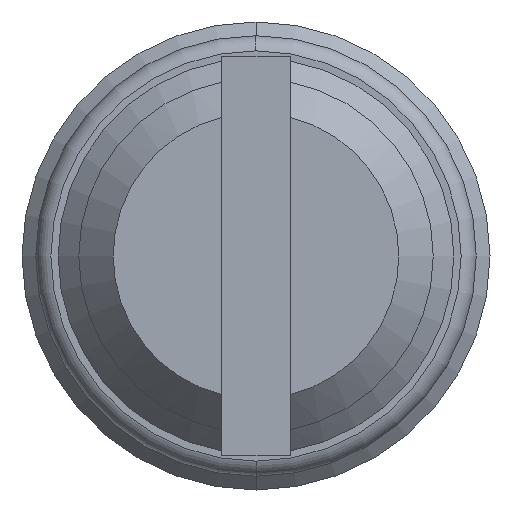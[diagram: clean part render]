
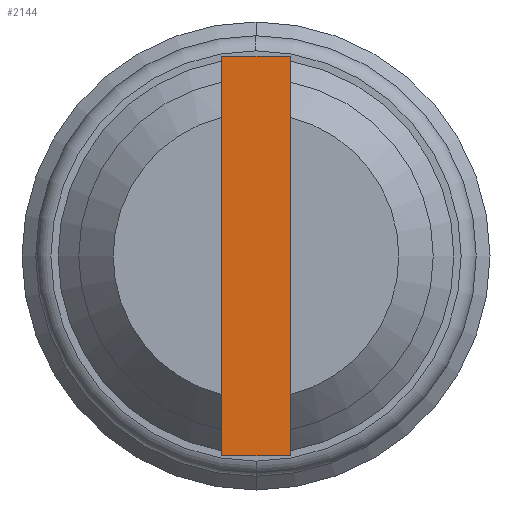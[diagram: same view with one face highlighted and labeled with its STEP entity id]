
A CAD part, left-side view. The second image highlights one B-rep face of the part: STEP entity #2144.
In plain terms, the highlighted planar face has unit normal (-1, 0, 0).
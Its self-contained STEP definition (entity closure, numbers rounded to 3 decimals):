
#47 = VECTOR ( 'NONE', #1578, 1000. ) ;
#55 = VECTOR ( 'NONE', #1584, 1000. ) ;
#73 = VECTOR ( 'NONE', #1572, 1000. ) ;
#74 = VECTOR ( 'NONE', #1574, 1000. ) ;
#265 = AXIS2_PLACEMENT_3D ( 'NONE', #1786, #1787, #1788 ) ;
#671 = FACE_OUTER_BOUND ( 'NONE', #989, .T. ) ;
#773 = VERTEX_POINT ( 'NONE', #1460 ) ;
#897 = LINE ( 'NONE', #1583, #55 ) ;
#898 = VERTEX_POINT ( 'NONE', #1474 ) ;
#920 = LINE ( 'NONE', #1577, #47 ) ;
#927 = LINE ( 'NONE', #1573, #74 ) ;
#938 = LINE ( 'NONE', #1571, #73 ) ;
#989 = EDGE_LOOP ( 'NONE', ( #1309, #1308, #1304, #1319 ) ) ;
#1020 = VERTEX_POINT ( 'NONE', #1496 ) ;
#1045 = VERTEX_POINT ( 'NONE', #1500 ) ;
#1304 = ORIENTED_EDGE ( 'NONE', *, *, #1987, .T. ) ;
#1308 = ORIENTED_EDGE ( 'NONE', *, *, #1989, .T. ) ;
#1309 = ORIENTED_EDGE ( 'NONE', *, *, #1992, .T. ) ;
#1319 = ORIENTED_EDGE ( 'NONE', *, *, #1986, .T. ) ;
#1460 = CARTESIAN_POINT ( 'NONE',  ( -106.9, -0.5, 2.9 ) ) ;
#1474 = CARTESIAN_POINT ( 'NONE',  ( -106.9, -0.5, -2.9 ) ) ;
#1496 = CARTESIAN_POINT ( 'NONE',  ( -106.9, 0.5, 2.9 ) ) ;
#1500 = CARTESIAN_POINT ( 'NONE',  ( -106.9, 0.5, -2.9 ) ) ;
#1571 = CARTESIAN_POINT ( 'NONE',  ( -106.9, 0.5, -2.9 ) ) ;
#1572 = DIRECTION ( 'NONE',  ( 0., 0., -1. ) ) ;
#1573 = CARTESIAN_POINT ( 'NONE',  ( -106.9, -0.5, 2.9 ) ) ;
#1574 = DIRECTION ( 'NONE',  ( 0., 1., 0. ) ) ;
#1577 = CARTESIAN_POINT ( 'NONE',  ( -106.9, -0.5, -2.9 ) ) ;
#1578 = DIRECTION ( 'NONE',  ( 0., 0., 1. ) ) ;
#1583 = CARTESIAN_POINT ( 'NONE',  ( -106.9, -0.5, -2.9 ) ) ;
#1584 = DIRECTION ( 'NONE',  ( 0., -1., 0. ) ) ;
#1785 = PLANE ( 'NONE',  #265 ) ;
#1786 = CARTESIAN_POINT ( 'NONE',  ( -106.9, 0.5, -2.9 ) ) ;
#1787 = DIRECTION ( 'NONE',  ( 1., 0., 0. ) ) ;
#1788 = DIRECTION ( 'NONE',  ( 0., 0., -1. ) ) ;
#1986 = EDGE_CURVE ( 'NONE', #1020, #1045, #938, .T. ) ;
#1987 = EDGE_CURVE ( 'NONE', #773, #1020, #927, .T. ) ;
#1989 = EDGE_CURVE ( 'NONE', #898, #773, #920, .T. ) ;
#1992 = EDGE_CURVE ( 'NONE', #1045, #898, #897, .T. ) ;
#2144 = ADVANCED_FACE ( 'NONE', ( #671 ), #1785, .F. ) ;
